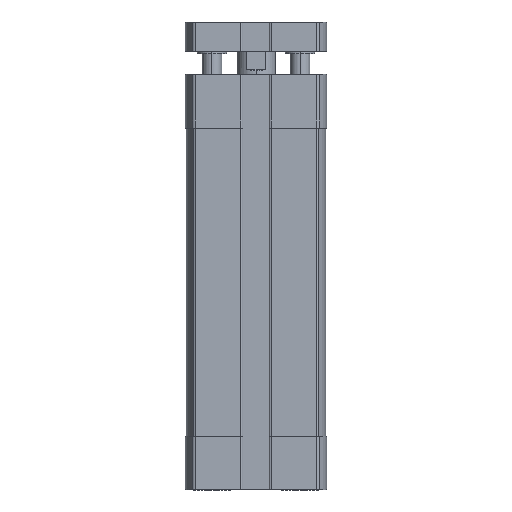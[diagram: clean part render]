
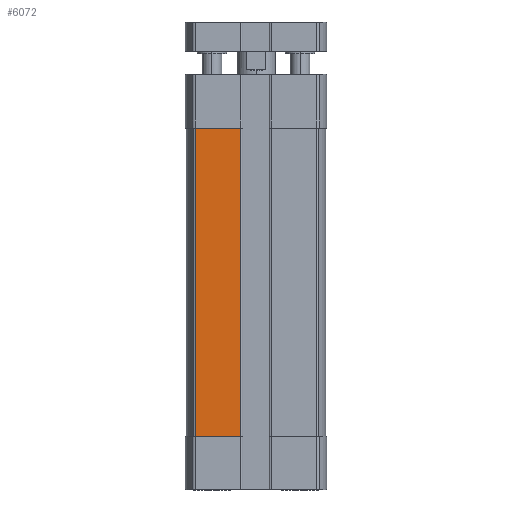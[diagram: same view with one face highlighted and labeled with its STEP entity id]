
A CAD part, front view. The second image highlights one B-rep face of the part: STEP entity #6072.
In plain terms, the highlighted planar face has unit normal (0, -1, 0) as drawn and (-1, 0, 0) by its records, which use the part's own axes.
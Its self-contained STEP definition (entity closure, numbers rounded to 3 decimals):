
#1096 = PLANE ( 'NONE',  #4760 ) ;
#1389 = EDGE_LOOP ( 'NONE', ( #4994, #7469, #12693, #4616 ) ) ;
#1547 = VECTOR ( 'NONE', #9851, 1000. ) ;
#2387 = LINE ( 'NONE', #7160, #1547 ) ;
#3621 = CARTESIAN_POINT ( 'NONE',  ( -14.25, 3.1, -11. ) ) ;
#3679 = VERTEX_POINT ( 'NONE', #3930 ) ;
#3810 = DIRECTION ( 'NONE',  ( 0., 0., 1. ) ) ;
#3930 = CARTESIAN_POINT ( 'NONE',  ( -14.25, 12.347, -74. ) ) ;
#4616 = ORIENTED_EDGE ( 'NONE', *, *, #15058, .T. ) ;
#4760 = AXIS2_PLACEMENT_3D ( 'NONE', #10493, #11812, #3810 ) ;
#4815 = DIRECTION ( 'NONE',  ( 0., -1., 0. ) ) ;
#4994 = ORIENTED_EDGE ( 'NONE', *, *, #13882, .T. ) ;
#5261 = VERTEX_POINT ( 'NONE', #13130 ) ;
#5832 = EDGE_CURVE ( 'NONE', #17071, #6711, #16689, .T. ) ;
#6072 = ADVANCED_FACE ( 'NONE', ( #9423 ), #1096, .T. ) ;
#6711 = VERTEX_POINT ( 'NONE', #7212 ) ;
#6839 = VECTOR ( 'NONE', #14803, 1000. ) ;
#7160 = CARTESIAN_POINT ( 'NONE',  ( -14.25, 3.1, -74. ) ) ;
#7212 = CARTESIAN_POINT ( 'NONE',  ( -14.25, 12.347, -11. ) ) ;
#7469 = ORIENTED_EDGE ( 'NONE', *, *, #9868, .T. ) ;
#7995 = DIRECTION ( 'NONE',  ( 0., 1., 0. ) ) ;
#8191 = VECTOR ( 'NONE', #4815, 1000. ) ;
#9423 = FACE_OUTER_BOUND ( 'NONE', #1389, .T. ) ;
#9851 = DIRECTION ( 'NONE',  ( 0., 0., 1. ) ) ;
#9868 = EDGE_CURVE ( 'NONE', #5261, #17071, #2387, .T. ) ;
#10493 = CARTESIAN_POINT ( 'NONE',  ( -14.25, 12.347, -74. ) ) ;
#11221 = LINE ( 'NONE', #13479, #6839 ) ;
#11497 = CARTESIAN_POINT ( 'NONE',  ( -14.25, 12.347, -74. ) ) ;
#11812 = DIRECTION ( 'NONE',  ( -1., 0., 0. ) ) ;
#12693 = ORIENTED_EDGE ( 'NONE', *, *, #5832, .T. ) ;
#12780 = VECTOR ( 'NONE', #7995, 1000. ) ;
#13130 = CARTESIAN_POINT ( 'NONE',  ( -14.25, 3.1, -74. ) ) ;
#13479 = CARTESIAN_POINT ( 'NONE',  ( -14.25, 12.347, -74. ) ) ;
#13882 = EDGE_CURVE ( 'NONE', #3679, #5261, #15220, .T. ) ;
#14803 = DIRECTION ( 'NONE',  ( 0., 0., -1. ) ) ;
#15058 = EDGE_CURVE ( 'NONE', #6711, #3679, #11221, .T. ) ;
#15220 = LINE ( 'NONE', #11497, #8191 ) ;
#15892 = CARTESIAN_POINT ( 'NONE',  ( -14.25, 0., -11. ) ) ;
#16689 = LINE ( 'NONE', #15892, #12780 ) ;
#17071 = VERTEX_POINT ( 'NONE', #3621 ) ;
